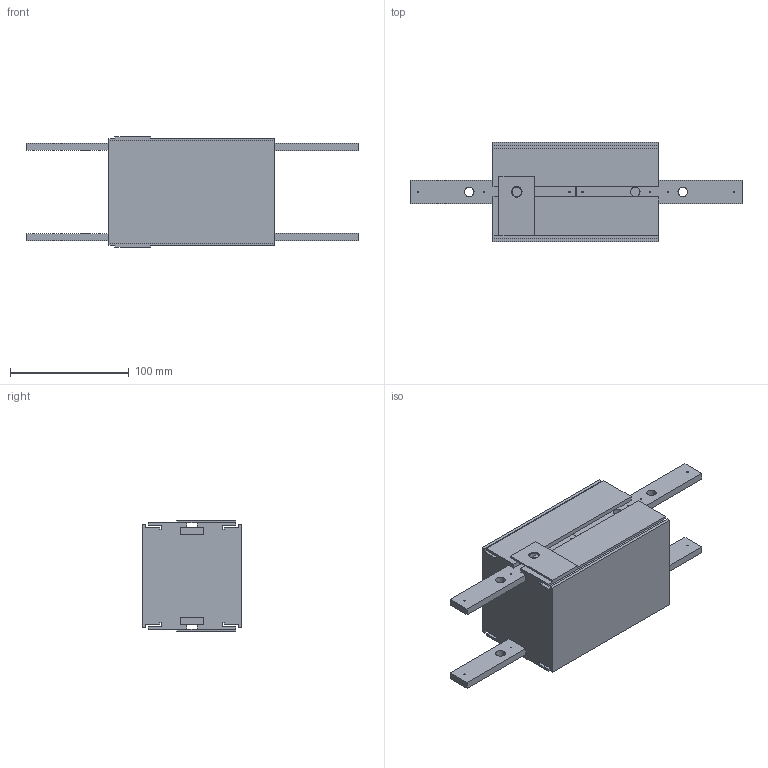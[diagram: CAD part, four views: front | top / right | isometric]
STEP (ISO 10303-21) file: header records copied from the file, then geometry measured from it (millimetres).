
FILE_DESCRIPTION (( 'STEP AP214' ), '1' );
FILE_NAME ('927768 CS090SL Kettingmontage sectie.STEP', '2014-03-20T14:43:13', ( 'Beheerder' ), ( '' ), 'SwSTEP 2.0', 'SolidWorks 2012', '' );
FILE_SCHEMA (( 'AUTOMOTIVE_DESIGN' ));
Length unit declared in the file: millimetre
Products named in the file (1): 927768 CS090SL Kettingmontage sectie
Bounding box: 280 x 84 x 93 mm (x, y, z)
Volume: 1059796.4 mm3; surface area: 100148.1 mm2
Topology: 1 solids, 1 shells, 152 faces, 416 edges, 272 vertices
Faces by surface type: plane 100, cylinder 52
Entity records: 4902 total; most frequent: CARTESIAN_POINT 841, DIRECTION 834, ORIENTED_EDGE 832, EDGE_CURVE 416, LINE 304, VECTOR 304, VERTEX_POINT 272, AXIS2_PLACEMENT_3D 265
